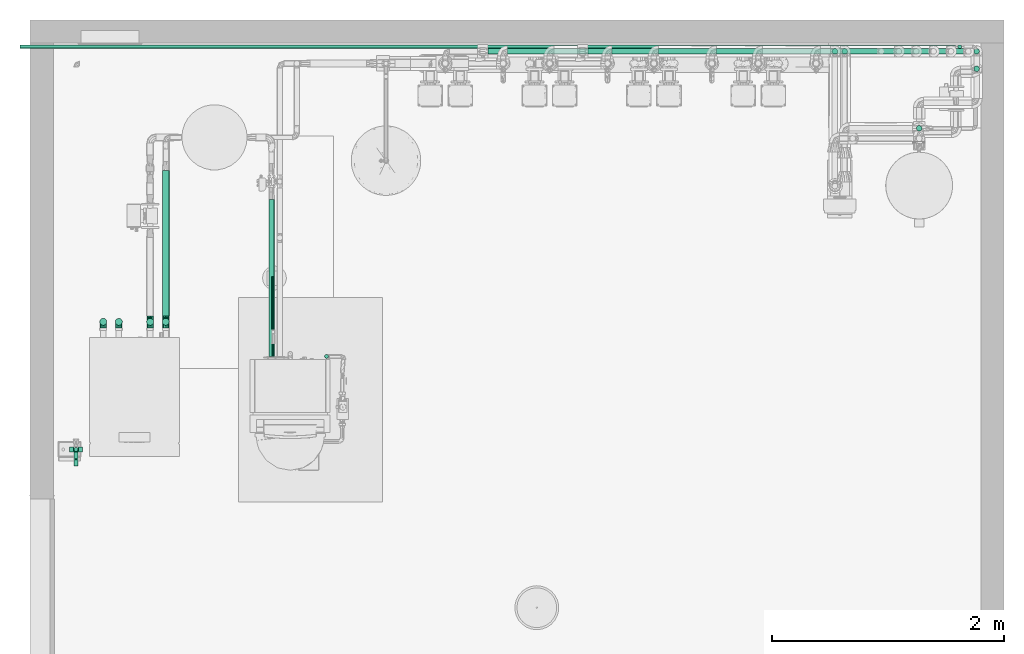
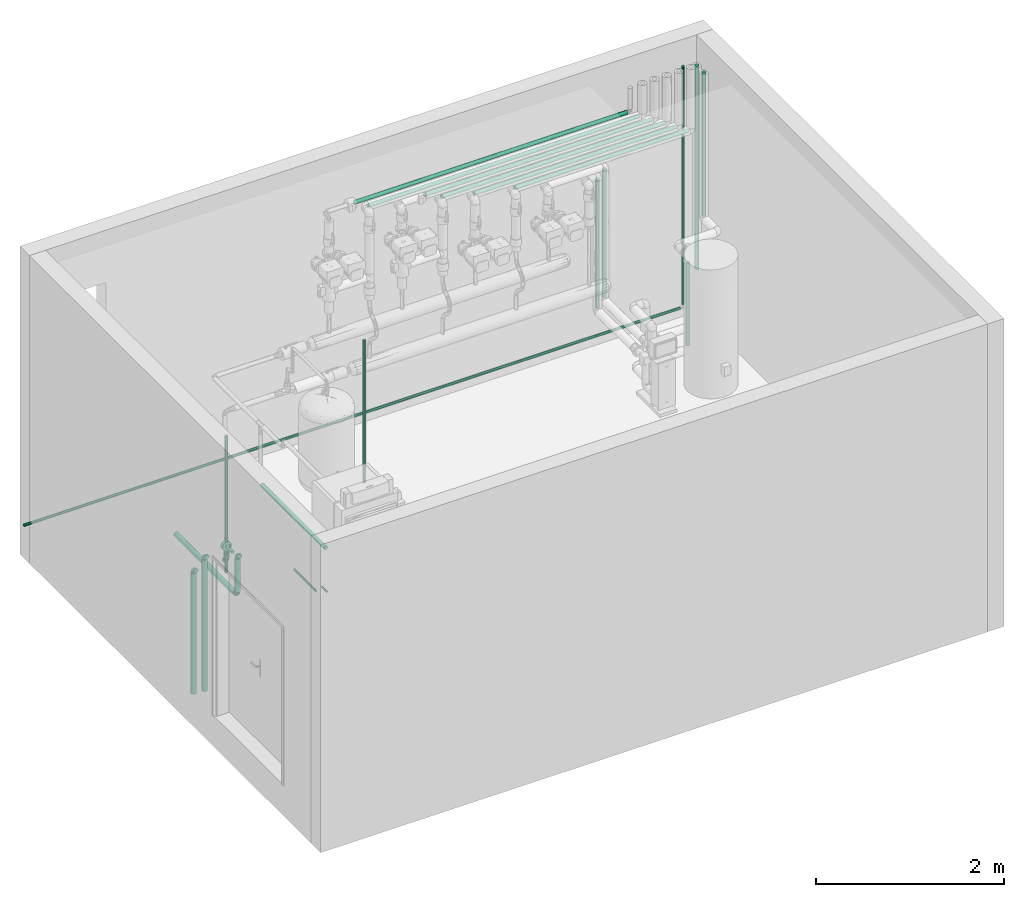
# One storey, part 67 of 94: 24 flow segments, 6 flow fittings, 1 flow controller.
"""IFC2X3 building model written with IfcOpenShell, lengths in millimetres."""

from ifc_helpers import new_model, entity, si_unit, converted_unit, derived_unit, direction, frame, frame_2d, origin, origin_2d_with_axis, place, context, subcontext, project, spatial, circle, hollow_circle, extrude, faceted_brep, source, transform, mapped, material, type_object, type_shapes, element, save


model = new_model("IFC2X3")

# Units and contexts
model_context = context("Model", 3, precision=0.01, world=origin(), true_north=direction((6.123031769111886e-17, 1.0)))
body_context = subcontext(model_context, "Body", "Model", "MODEL_VIEW")
ifc_project = project(units=[si_unit("LENGTHUNIT", "METRE", prefix="MILLI"), si_unit("AREAUNIT", "SQUARE_METRE"), si_unit("VOLUMEUNIT", "CUBIC_METRE"), converted_unit("PLANEANGLEUNIT", "DEGREE", entity("IfcRatioMeasure", 0.017453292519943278), si_unit("PLANEANGLEUNIT", "RADIAN"), dimensions=[0, 0, 0, 0, 0, 0, 0]), si_unit("MASSUNIT", "GRAM", prefix="KILO"), derived_unit("MASSDENSITYUNIT", [(si_unit("MASSUNIT", "GRAM", prefix="KILO"), 1), (si_unit("LENGTHUNIT", "METRE"), -3)]), derived_unit("IONCONCENTRATIONUNIT", [(si_unit("MASSUNIT", "GRAM", prefix="KILO"), 1), (si_unit("LENGTHUNIT", "METRE"), -3)]), derived_unit("MOMENTOFINERTIAUNIT", [(si_unit("LENGTHUNIT", "METRE"), 4)]), si_unit("TIMEUNIT", "SECOND"), si_unit("FREQUENCYUNIT", "HERTZ"), si_unit("THERMODYNAMICTEMPERATUREUNIT", "DEGREE_CELSIUS"), derived_unit("THERMALTRANSMITTANCEUNIT", [(si_unit("MASSUNIT", "GRAM", prefix="KILO"), 1), (si_unit("THERMODYNAMICTEMPERATUREUNIT", "KELVIN"), -1), (si_unit("TIMEUNIT", "SECOND"), -3)]), derived_unit("THERMALCONDUCTANCEUNIT", [(si_unit("MASSUNIT", "GRAM", prefix="KILO"), 1), (si_unit("THERMODYNAMICTEMPERATUREUNIT", "KELVIN"), -1), (si_unit("TIMEUNIT", "SECOND"), -3), (si_unit("LENGTHUNIT", "METRE"), 1)]), derived_unit("VOLUMETRICFLOWRATEUNIT", [(si_unit("LENGTHUNIT", "METRE"), 3), (si_unit("TIMEUNIT", "SECOND"), -1)]), derived_unit("MASSFLOWRATEUNIT", [(si_unit("MASSUNIT", "GRAM", prefix="KILO"), 1), (si_unit("TIMEUNIT", "SECOND"), -1)]), derived_unit("ROTATIONALFREQUENCYUNIT", [(si_unit("TIMEUNIT", "SECOND"), -1)]), si_unit("ELECTRICCURRENTUNIT", "AMPERE"), si_unit("ELECTRICVOLTAGEUNIT", "VOLT"), si_unit("POWERUNIT", "WATT"), si_unit("FORCEUNIT", "NEWTON", prefix="KILO"), si_unit("ILLUMINANCEUNIT", "LUX"), si_unit("LUMINOUSFLUXUNIT", "LUMEN"), si_unit("LUMINOUSINTENSITYUNIT", "CANDELA"), derived_unit("USERDEFINED", [(si_unit("MASSUNIT", "GRAM", prefix="KILO"), -1), (si_unit("LENGTHUNIT", "METRE"), -2), (si_unit("TIMEUNIT", "SECOND"), 3), (si_unit("LUMINOUSFLUXUNIT", "LUMEN"), 1)]), derived_unit("USERDEFINED", [(si_unit("MASSUNIT", "GRAM", prefix="KILO"), 1), (si_unit("TIMEUNIT", "SECOND"), -3), (si_unit("LENGTHUNIT", "METRE"), 3), (si_unit("ELECTRICCURRENTUNIT", "AMPERE"), -2)]), derived_unit("SOUNDPOWERUNIT", [(si_unit("MASSUNIT", "GRAM", prefix="KILO"), 1), (si_unit("TIMEUNIT", "SECOND"), -3), (si_unit("LENGTHUNIT", "METRE"), 2)]), derived_unit("SOUNDPRESSUREUNIT", [(si_unit("MASSUNIT", "GRAM", prefix="KILO"), 1), (si_unit("LENGTHUNIT", "METRE"), -1), (si_unit("TIMEUNIT", "SECOND"), -2)]), derived_unit("LINEARVELOCITYUNIT", [(si_unit("LENGTHUNIT", "METRE"), 1), (si_unit("TIMEUNIT", "SECOND"), -1)]), si_unit("PRESSUREUNIT", "PASCAL"), derived_unit("USERDEFINED", [(si_unit("MASSUNIT", "GRAM", prefix="KILO"), 1), (si_unit("LENGTHUNIT", "METRE"), -2), (si_unit("TIMEUNIT", "SECOND"), -2)]), derived_unit("LINEARFORCEUNIT", [(si_unit("MASSUNIT", "GRAM", prefix="KILO"), 1), (si_unit("TIMEUNIT", "SECOND"), -2)]), derived_unit("PLANARFORCEUNIT", [(si_unit("MASSUNIT", "GRAM", prefix="KILO"), 1), (si_unit("LENGTHUNIT", "METRE"), -1), (si_unit("TIMEUNIT", "SECOND"), -2)]), derived_unit("SPECIFICHEATCAPACITYUNIT", [(si_unit("THERMODYNAMICTEMPERATUREUNIT", "KELVIN"), -1), (si_unit("LENGTHUNIT", "METRE"), 2), (si_unit("TIMEUNIT", "SECOND"), -2)]), derived_unit("HEATINGVALUEUNIT", [(si_unit("LENGTHUNIT", "METRE"), 2), (si_unit("TIMEUNIT", "SECOND"), -2)]), derived_unit("VAPORPERMEABILITYUNIT", [(si_unit("LENGTHUNIT", "METRE"), -1), (si_unit("TIMEUNIT", "SECOND"), 1)]), derived_unit("DYNAMICVISCOSITYUNIT", [(si_unit("MASSUNIT", "GRAM", prefix="KILO"), 1), (si_unit("TIMEUNIT", "SECOND"), -1), (si_unit("LENGTHUNIT", "METRE"), -1)]), derived_unit("THERMALEXPANSIONCOEFFICIENTUNIT", [(si_unit("THERMODYNAMICTEMPERATUREUNIT", "KELVIN"), -1)]), derived_unit("MODULUSOFELASTICITYUNIT", [(si_unit("MASSUNIT", "GRAM", prefix="KILO"), 1), (si_unit("LENGTHUNIT", "METRE"), -1), (si_unit("TIMEUNIT", "SECOND"), -2)]), derived_unit("ISOTHERMALMOISTURECAPACITYUNIT", [(si_unit("LENGTHUNIT", "METRE"), 3), (si_unit("MASSUNIT", "GRAM", prefix="KILO"), -1)]), derived_unit("MOISTUREDIFFUSIVITYUNIT", [(si_unit("TIMEUNIT", "SECOND"), -1), (si_unit("LENGTHUNIT", "METRE"), 2)])], contexts=[model_context])

# Site, building, storey
site_placement = place(None, origin())
site = spatial("IfcSite", under=ifc_project, at=site_placement, Name="Default", CompositionType="ELEMENT")
building_placement = place(site_placement, origin())
building = spatial("IfcBuilding", under=site, at=building_placement, CompositionType="ELEMENT")
storey_placement = place(building_placement, origin())
storey = spatial("IfcBuildingStorey", under=building, at=storey_placement, Name="Niveau 0", CompositionType="ELEMENT", Elevation=0.0)

# Flow segments
pipe_segment_type_1 = type_object("IfcPipeSegmentType", Name="Canalisation:Bride acier", PredefinedType="NOTDEFINED")
flow_segment_1_placement = place(storey_placement, origin())
element("IfcFlowSegment", 1, at=flow_segment_1_placement, inside=storey, type_object=pipe_segment_type_1, Name="Canalisation:Bride acier", ObjectType="Canalisation:Bride acier", context=body_context, shape_type="SweptSolid", body=[
    extrude(circle(Radius=24.13, at=frame_2d((0.0, -5.414335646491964e-13), x_axis=(1.0, 0.0))), frame((-10002.492284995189, 10026.845624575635, 2950.0), z_axis=(1.0, 0.0, 0.0), x_axis=(0.0, -1.0, 0.0)), (0.0, 0.0, 1.0), 3355.3199719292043),
])
flow_segment_2_placement = place(storey_placement, origin())
element("IfcFlowSegment", 2, at=flow_segment_2_placement, inside=storey, type_object=pipe_segment_type_1, Name="Canalisation:Bride acier", ObjectType="Canalisation:Bride acier", context=body_context, shape_type="SweptSolid", body=[
    extrude(circle(Radius=24.13, at=frame_2d((0.0, -5.414335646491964e-13), x_axis=(1.0, 0.0))), frame((-9834.145865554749, 10026.845624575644, 2850.0), z_axis=(1.0, 0.0, 0.0), x_axis=(0.0, -1.0, 0.0)), (0.0, 0.0, 1.0), 3336.97355248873),
])
flow_segment_3_placement = place(storey_placement, origin())
element("IfcFlowSegment", 3, at=flow_segment_3_placement, inside=storey, type_object=pipe_segment_type_1, Name="Canalisation:Bride acier", ObjectType="Canalisation:Bride acier", context=body_context, shape_type="SweptSolid", body=[
    extrude(circle(Radius=24.13, at=origin_2d_with_axis()), frame((-9140.887025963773, 10026.845624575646, 2750.0), z_axis=(1.0, 0.0, 0.0), x_axis=(0.0, -1.0, 0.0)), (0.0, 0.0, 1.0), 2793.7147128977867),
])
flow_segment_4_placement = place(storey_placement, origin())
element("IfcFlowSegment", 4, at=flow_segment_4_placement, inside=storey, type_object=pipe_segment_type_1, Name="Canalisation:Bride acier", ObjectType="Canalisation:Bride acier", context=body_context, shape_type="SweptSolid", body=[
    extrude(circle(Radius=24.13, at=frame_2d((0.0, -5.414335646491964e-13), x_axis=(1.0, 0.0))), frame((-8934.14586555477, 10026.845624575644, 2650.0), z_axis=(1.0, 0.0, 0.0), x_axis=(0.0, -1.0, 0.0)), (0.0, 0.0, 1.0), 2736.973552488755),
])
flow_segment_5_placement = place(storey_placement, origin())
element("IfcFlowSegment", 5, at=flow_segment_5_placement, inside=storey, type_object=pipe_segment_type_1, Name="Canalisation:Bride acier", ObjectType="Canalisation:Bride acier", context=body_context, shape_type="SweptSolid", body=[
    extrude(circle(Radius=24.13, at=origin_2d_with_axis()), frame((-8034.145865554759, 10026.845624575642, 2450.0), z_axis=(1.0, 0.0, 0.0), x_axis=(0.0, -1.0, 0.0)), (0.0, 0.0, 1.0), 2136.973552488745),
])
flow_segment_6_placement = place(storey_placement, origin())
element("IfcFlowSegment", 6, at=flow_segment_6_placement, inside=storey, type_object=pipe_segment_type_1, Name="Canalisation:Bride acier", ObjectType="Canalisation:Bride acier", context=body_context, shape_type="SweptSolid", body=[
    extrude(circle(Radius=24.13, at=origin_2d_with_axis()), frame((-8534.145865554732, 10026.845624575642, 2550.0), z_axis=(1.0, 0.0, 0.0), x_axis=(0.0, -1.0, 0.0)), (0.0, 0.0, 1.0), 2486.9735524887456),
])
flow_segment_7_placement = place(storey_placement, origin())
element("IfcFlowSegment", 7, at=flow_segment_7_placement, inside=storey, type_object=pipe_segment_type_1, Name="Canalisation:Bride acier", ObjectType="Canalisation:Bride acier", context=body_context, shape_type="SweptSolid", body=[
    extrude(circle(Radius=24.13, at=origin_2d_with_axis()), frame((-6926.740682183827, 10026.845624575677, 646.0), z_axis=(0.0, 0.0, 1.0), x_axis=(-1.0, 0.0, 0.0)), (0.0, 0.0, 1.0), 1666.0000000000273),
])
flow_segment_8_placement = place(storey_placement, origin())
element("IfcFlowSegment", 8, at=flow_segment_8_placement, inside=storey, type_object=pipe_segment_type_1, Name="Canalisation:Bride acier", ObjectType="Canalisation:Bride acier", context=body_context, shape_type="SweptSolid", body=[
    extrude(circle(Radius=24.13, at=origin_2d_with_axis()), frame((-6284.234460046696, 9362.933258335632, 201.0), z_axis=(0.0, 0.0, 1.0), x_axis=(-1.0, 0.0, 0.0)), (0.0, 0.0, 1.0), 1076.245000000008),
])
flow_segment_9_placement = place(storey_placement, origin())
element("IfcFlowSegment", 9, at=flow_segment_9_placement, inside=storey, type_object=pipe_segment_type_1, Name="Canalisation:Bride acier", ObjectType="Canalisation:Bride acier", context=body_context, shape_type="SweptSolid", body=[
    extrude(circle(Radius=24.13, at=origin_2d_with_axis()), frame((-7010.740682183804, 10026.845624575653, 537.0), z_axis=(0.0, 0.0, 1.0), x_axis=(-1.0, 0.0, 0.0)), (0.0, 0.0, 1.0), 1675.0000000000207),
])
flow_segment_10_placement = place(storey_placement, origin())
element("IfcFlowSegment", 10, at=flow_segment_10_placement, inside=storey, type_object=pipe_segment_type_1, Name="Canalisation:Bride acier", ObjectType="Canalisation:Bride acier", context=body_context, shape_type="SweptSolid", body=[
    extrude(circle(Radius=24.13, at=origin_2d_with_axis()), frame((-5788.88525464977, 10026.846494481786, 616.8746029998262), z_axis=(-7.35226065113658e-06, -3.2887142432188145e-07, 1.0), x_axis=(-1.0, 0.0, -7.352260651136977e-06)), (0.0, 0.0, 1.0), 2645.125397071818),
])
flow_segment_11_placement = place(storey_placement, origin())
element("IfcFlowSegment", 11, at=flow_segment_11_placement, inside=storey, type_object=pipe_segment_type_1, Name="Canalisation:Bride acier", ObjectType="Canalisation:Bride acier", context=body_context, shape_type="SweptSolid", body=[
    extrude(circle(Radius=24.13, at=origin_2d_with_axis()), frame((-11869.290704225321, 7396.162425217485, 710.2331746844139), z_axis=(0.0, 1.0, 0.0), x_axis=(1.0, 0.0, 0.0)), (0.0, 0.0, 1.0), 1351.6654524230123),
])
flow_segment_12_placement = place(storey_placement, origin())
element("IfcFlowSegment", 12, at=flow_segment_12_placement, inside=storey, type_object=pipe_segment_type_1, Name="Canalisation:Bride acier", ObjectType="Canalisation:Bride acier", context=body_context, shape_type="SweptSolid", body=[
    extrude(circle(Radius=16.7005, at=origin_2d_with_axis()), frame((-11396.001751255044, 7396.071425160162, 1399.400485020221)), (0.0, 0.0, 1.0), 1850.5995149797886),
])
flow_segment_13_placement = place(storey_placement, origin())
element("IfcFlowSegment", 13, at=flow_segment_13_placement, inside=storey, type_object=pipe_segment_type_1, Name="Canalisation:Bride acier", ObjectType="Canalisation:Bride acier", context=body_context, shape_type="SweptSolid", body=[
    extrude(circle(Radius=16.7005, at=origin_2d_with_axis()), frame((-13557.173210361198, 6592.595493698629, 1875.0)), (0.0, 0.0, 1.0), 1375.000000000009),
])
flow_segment_14_placement = place(storey_placement, origin())
element("IfcFlowSegment", 14, at=flow_segment_14_placement, inside=storey, type_object=pipe_segment_type_1, Name="Canalisation:Bride acier", ObjectType="Canalisation:Bride acier", context=body_context, shape_type="SweptSolid", body=[
    extrude(circle(Radius=16.7005, at=origin_2d_with_axis()), frame((-13557.173210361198, 6592.595493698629, 1476.5999999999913), z_axis=(0.0, 0.0, 1.0), x_axis=(-1.0, 0.0, 0.0)), (0.0, 0.0, 1.0), 243.61846201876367),
])
pipe_segment_type_2 = type_object("IfcPipeSegmentType", Name="Canalisation:Standard", PredefinedType="NOTDEFINED")
flow_segment_15_placement = place(storey_placement, origin())
element("IfcFlowSegment", 15, at=flow_segment_15_placement, inside=storey, type_object=pipe_segment_type_2, Name="Canalisation:Standard", ObjectType="Canalisation:Standard", context=body_context, shape_type="SweptSolid", body=[
    extrude(circle(Radius=24.13, at=origin_2d_with_axis()), frame((-5788.904702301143, 9876.845624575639, 1401.8999999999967), z_axis=(0.0, 0.0, 1.0), x_axis=(-1.0, 0.0, 0.0)), (0.0, 0.0, 1.0), 1860.1000000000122),
])
flow_segment_16_placement = place(storey_placement, origin())
element("IfcFlowSegment", 16, at=flow_segment_16_placement, inside=storey, type_object=pipe_segment_type_2, Name="Canalisation:Standard", ObjectType="Canalisation:Standard", context=body_context, shape_type="SweptSolid", body=[
    extrude(circle(Radius=16.7005, at=frame_2d((0.0, -1.6919798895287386e-14), x_axis=(1.0, 0.0))), frame((-14040.14446848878, 10067.197731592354, 144.0), z_axis=(1.0, 0.0, 0.0), x_axis=(0.0, -1.0, 0.0)), (0.0, 0.0, 1.0), 8067.241481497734),
])
flow_segment_17_placement = place(storey_placement, origin())
element("IfcFlowSegment", 17, at=flow_segment_17_placement, inside=storey, type_object=pipe_segment_type_2, Name="Canalisation:Standard", ObjectType="Canalisation:Standard", context=body_context, shape_type="SweptSolid", body=[
    extrude(circle(Radius=16.7005, at=origin_2d_with_axis()), frame((-5934.902986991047, 10067.197731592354, 182.0), z_axis=(0.0, 0.0, 1.0), x_axis=(-1.0, 0.0, 0.0)), (0.0, 0.0, 1.0), 3093.0000000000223),
])
flow_segment_18_placement = place(storey_placement, origin())
element("IfcFlowSegment", 18, at=flow_segment_18_placement, inside=storey, type_object=pipe_segment_type_2, Name="Canalisation:Standard", ObjectType="Canalisation:Standard", context=body_context, shape_type="SweptSolid", body=[
    extrude(circle(Radius=30.162500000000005, at=origin_2d_with_axis()), frame((-12917.538466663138, 7693.870281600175, 769.3753033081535)), (0.0, 0.0, 1.0), 81.72694839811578),
])
flow_segment_19_placement = place(storey_placement, origin())
element("IfcFlowSegment", 19, at=flow_segment_19_placement, inside=storey, type_object=pipe_segment_type_2, Name="Canalisation:Standard", ObjectType="Canalisation:Standard", context=body_context, shape_type="SweptSolid", body=[
    extrude(circle(Radius=30.162500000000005, at=frame_2d((0.0, -6.767919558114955e-14), x_axis=(1.0, 0.0))), frame((-12782.538466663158, 7744.8702816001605, 238.33316768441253), z_axis=(0.0, 1.0, 0.0), x_axis=(1.0, 0.0, 0.0)), (0.0, 0.0, 1.0), 1255.3566867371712),
])
flow_segment_20_placement = place(storey_placement, origin())
element("IfcFlowSegment", 20, at=flow_segment_20_placement, inside=storey, type_object=pipe_segment_type_2, Name="Canalisation:Standard", ObjectType="Canalisation:Standard", context=body_context, shape_type="SweptSolid", body=[
    extrude(circle(Radius=30.162500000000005, at=origin_2d_with_axis()), frame((-12782.538466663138, 7693.870281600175, 289.33316768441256)), (0.0, 0.0, 1.0), 431.7690840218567),
])
flow_segment_21_placement = place(storey_placement, origin())
element("IfcFlowSegment", 21, at=flow_segment_21_placement, inside=storey, type_object=pipe_segment_type_2, Name="Canalisation:Standard", ObjectType="Canalisation:Standard", context=body_context, shape_type="SweptSolid", body=[
    extrude(circle(Radius=30.162500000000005, at=origin_2d_with_axis()), frame((-13187.53846666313, 7693.870281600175, -857.8977482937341)), (0.0, 0.0, 1.0), 1709.0000000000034),
])
flow_segment_22_placement = place(storey_placement, origin())
element("IfcFlowSegment", 22, at=flow_segment_22_placement, inside=storey, type_object=pipe_segment_type_2, Name="Canalisation:Standard", ObjectType="Canalisation:Standard", context=body_context, shape_type="SweptSolid", body=[
    extrude(circle(Radius=30.162500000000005, at=frame_2d((0.0, -1.0828671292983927e-12), x_axis=(1.0, 0.0))), frame((-13322.538466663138, 7693.87028160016, -847.8977482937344)), (0.0, 0.0, 1.0), 1569.0000000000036),
])
flow_segment_23_placement = place(storey_placement, origin())
element("IfcFlowSegment", 23, at=flow_segment_23_placement, inside=storey, type_object=pipe_segment_type_2, Name="Canalisation:Standard", ObjectType="Canalisation:Standard", context=body_context, shape_type="SweptSolid", body=[
    extrude(circle(Radius=13.335000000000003, at=frame_2d((0.0, -1.903391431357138e-14), x_axis=(1.0, 0.0))), frame((-11856.289788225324, 7625.935929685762, 6.639475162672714), z_axis=(0.0, 0.999954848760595, 0.00950265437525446), x_axis=(1.0, 0.0, 0.0)), (0.0, 0.0, 1.0), 461.08828125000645),
])
flow_segment_24_placement = place(storey_placement, origin())
element("IfcFlowSegment", 24, at=flow_segment_24_placement, inside=storey, type_object=pipe_segment_type_2, Name="Canalisation:Standard", ObjectType="Canalisation:Standard", context=body_context, shape_type="SweptSolid", body=[
    extrude(circle(Radius=12.000000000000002, at=origin_2d_with_axis()), frame((-11856.28978822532, 7393.022794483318, 137.2331676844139), z_axis=(0.0, 1.0, 0.0), x_axis=(1.0, 0.0, 0.0)), (0.0, 0.0, 1.0), 110.24523909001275),
])

# Flow fittings
ifc_material_1 = material(Name="<Unnamed>")
pipe_fitting_type = type_object("IfcPipeFittingType", Name="Coude - Générique:Standard", PredefinedType="NOTDEFINED", material=ifc_material_1)
shared_shape_1 = source(origin(), body_context, "Body", "Brep", [
    faceted_brep([(19.27796151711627, 10.424999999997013, 0.0), (14.291268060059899, 13.30406880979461, -17.72172535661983), (24.391862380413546, 51.0, -17.72172535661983), (30.15000000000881, 51.0, 0.0), (1.2359350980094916, 20.841568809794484, -28.674353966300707), (9.31686238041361, 51.0, -28.674353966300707), (-14.901343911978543, 30.158431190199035, -28.674353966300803), (-9.316862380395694, 51.0, -28.674353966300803), (-27.95667687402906, 37.695931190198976, -17.721725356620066), (-24.391862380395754, 51.0, -17.721725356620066), (-32.943370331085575, 40.574999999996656, 0.0), (-30.149999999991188, 51.0, 0.0), (-27.956676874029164, 37.69593119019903, 17.721725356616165), (-24.391862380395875, 51.0, 17.721725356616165), (-14.901343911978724, 30.158431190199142, 28.67435396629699), (-9.316862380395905, 51.0, 28.67435396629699), (1.235935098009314, 20.841568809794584, 28.674353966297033), (9.31686238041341, 51.0, 28.674353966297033), (14.291268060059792, 13.304068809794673, 17.721725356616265), (24.391862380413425, 51.0, 17.721725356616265), (-10.424999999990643, -19.277961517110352, 0.0), (-13.304068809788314, -14.291268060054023, -17.72172535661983), (-20.841568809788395, -1.2359350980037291, -28.674353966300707), (-30.15843119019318, 14.901343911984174, -28.674353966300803), (-37.69593119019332, 27.95667687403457, -17.721725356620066), (-40.57499999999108, 32.943370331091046, 0.0), (-37.69593119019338, 27.956676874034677, 17.721725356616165), (-30.158431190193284, 14.901343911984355, 28.67435396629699), (-20.841568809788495, -1.2359350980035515, 28.674353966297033), (-13.304068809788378, -14.291268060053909, 17.721725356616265), (-51.0, -30.1500000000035, 0.0), (-51.0, -24.39186238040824, -17.72172535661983), (-51.0, -9.316862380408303, -28.674353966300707), (-51.0, 9.316862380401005, -28.674353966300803), (-51.0, 24.391862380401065, -17.721725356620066), (-51.0, 30.1499999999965, 0.0), (-51.0, 24.391862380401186, 17.721725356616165), (-51.0, 9.316862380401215, 28.67435396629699), (-51.0, -9.316862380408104, 28.674353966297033), (-51.0, -24.391862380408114, 17.721725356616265)], [[[0, 1, 2, 3]], [[1, 4, 5, 2]], [[4, 6, 7, 5]], [[6, 8, 9, 7]], [[8, 10, 11, 9]], [[10, 12, 13, 11]], [[12, 14, 15, 13]], [[14, 16, 17, 15]], [[16, 18, 19, 17]], [[18, 0, 3, 19]], [[20, 21, 1, 0]], [[21, 22, 4, 1]], [[22, 23, 6, 4]], [[23, 24, 8, 6]], [[24, 25, 10, 8]], [[25, 26, 12, 10]], [[26, 27, 14, 12]], [[27, 28, 16, 14]], [[28, 29, 18, 16]], [[29, 20, 0, 18]], [[30, 31, 21, 20]], [[31, 32, 22, 21]], [[32, 33, 23, 22]], [[33, 34, 24, 23]], [[34, 35, 25, 24]], [[35, 36, 26, 25]], [[36, 37, 27, 26]], [[37, 38, 28, 27]], [[38, 39, 29, 28]], [[39, 30, 20, 29]], [[3, 2, 5, 7, 9, 11, 13, 15, 17, 19]], [[39, 38, 37, 36, 35, 34, 33, 32, 31, 30]]]),
])
type_shapes(pipe_fitting_type, [shared_shape_1])
for number, where, z_axis, x_axis in (
    (25, (-12917.53846666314, 7693.87028160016, 902.1022517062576), (-1.0, 0.0, 0.0), (0.0, 1.0, 0.0)),
    (26, (-12917.53846666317, 7693.870281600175, 718.3753033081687), (1.0, 0.0, 0.0), (0.0, 0.0, -1.0)),
    (27, (-12782.538466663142, 7693.87028160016, 772.1022517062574), (-1.0, 0.0, 0.0), (0.0, 1.0, 0.0)),
    (28, (-12782.538466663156, 7693.870281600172, 238.33316768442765), (1.0, 0.0, 0.0), (0.0, 0.0, -1.0)),
    (29, (-13187.538466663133, 7693.87028160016, 902.1022517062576), (-1.0, 0.0, 0.0), (0.0, 1.0, 0.0)),
    (30, (-13322.53846666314, 7693.870281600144, 772.1022517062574), (-1.0, 0.0, 0.0), (0.0, 1.0, 0.0)),
):
    element("IfcFlowFitting", number, at=place(storey_placement, frame(where, z_axis=z_axis, x_axis=x_axis)), inside=storey, type_object=pipe_fitting_type, material=ifc_material_1, Name="Coude - Générique:Standard", ObjectType="Coude - Générique:Standard", context=body_context, shape_type="MappedRepresentation", body=[
        mapped(shared_shape_1, transform((0.0, 0.0, 0.0), scale=1.0)),
    ])

# Flow controller
ifc_material_2 = material(Name="Métal")
valve_type = type_object("IfcValveType", Name="Gaz naturel - Electrovanne gaz:DN 32", PredefinedType="NOTDEFINED", material=ifc_material_2)
shared_shape_2 = source(origin(), body_context, "Body", "SweptSolid", [
    extrude(circle(Radius=57.5, at=frame_2d((0.0, -9.289381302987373e-14), x_axis=(1.0, 0.0))), frame((0.0, 0.0, -33.0)), (0.0, 0.0, 1.0), 44.99999999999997),
    extrude(circle(Radius=12.5, at=frame_2d((-8.104883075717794e-17, -2.1149748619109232e-14), x_axis=(1.0, 0.0))), frame((-101.0, 0.0, -10.499999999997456), z_axis=(1.0, 0.0, 0.0), x_axis=(0.0, 1.0, 0.0)), (0.0, 0.0, 1.0), 202.0000000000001),
    extrude(hollow_circle(Radius=22.500000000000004, WallThickness=10.000000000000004, at=frame_2d((-1.4941746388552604e-15, -3.59545726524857e-14), x_axis=(1.0, 0.0))), frame((-101.0, 0.0, -10.499999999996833), z_axis=(1.0, 0.0, 0.0), x_axis=(0.0, 1.0, 0.0)), (0.0, 0.0, 1.0), 4.999999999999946),
    extrude(hollow_circle(Radius=22.500000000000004, WallThickness=10.000000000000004, at=frame_2d((4.0244734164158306e-16, -3.59545726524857e-14), x_axis=(1.0, 0.0))), frame((96.0, 0.0, -10.499999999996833), z_axis=(1.0, 0.0, 0.0), x_axis=(0.0, 1.0, 0.0)), (0.0, 0.0, 1.0), 4.999999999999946),
    extrude(circle(Radius=19.166666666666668, at=frame_2d((0.0, -3.0964604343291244e-14), x_axis=(1.0, 0.0))), frame((0.0, 0.0, 12.0)), (0.0, 0.0, 1.0), 121.00000000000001),
    extrude(circle(Radius=6.388888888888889, at=frame_2d((-3.7465287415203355e-16, -8.459899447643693e-15), x_axis=(1.0, 0.0))), frame((19.16666666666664, 0.0, 72.50000000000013), z_axis=(1.0, 0.0, 0.0), x_axis=(0.0, 1.0, 0.0)), (0.0, 0.0, 1.0), 38.33333333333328),
])
type_shapes(valve_type, [shared_shape_2])
flow_controller_placement = place(storey_placement, frame((-13557.173210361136, 6582.095493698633, 1821.218462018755), z_axis=(0.0, -1.0, 0.0), x_axis=(0.0, 0.0, 1.0)))
element("IfcFlowController", 31, at=flow_controller_placement, inside=storey, type_object=valve_type, material=ifc_material_2, Name="Gaz naturel - Electrovanne gaz:DN 32", ObjectType="Gaz naturel - Electrovanne gaz:DN 32", context=body_context, shape_type="MappedRepresentation", body=[
    mapped(shared_shape_2, transform((0.0, 0.0, 0.0), scale=1.0)),
])

save(model, "model.ifc")
